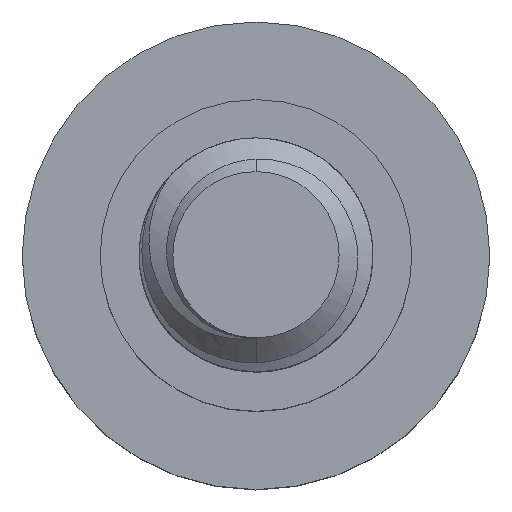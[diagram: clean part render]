
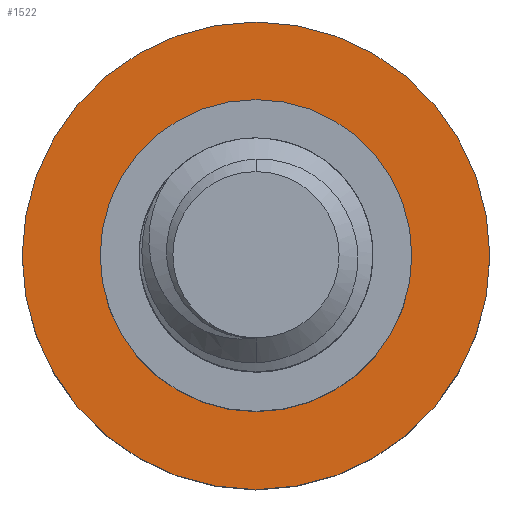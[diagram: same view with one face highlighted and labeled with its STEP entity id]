
A CAD part, top view. The second image highlights one B-rep face of the part: STEP entity #1522.
In plain terms, the highlighted planar face has unit normal (0, 0, 1).
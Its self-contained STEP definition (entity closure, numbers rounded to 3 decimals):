
#7 = DIRECTION ( 'NONE',  ( 0., 0., -1. ) ) ;
#72 = FACE_BOUND ( 'NONE', #4036, .T. ) ;
#245 = VERTEX_POINT ( 'NONE', #2817 ) ;
#297 = CARTESIAN_POINT ( 'NONE',  ( 0., 0., -5. ) ) ;
#456 = CIRCLE ( 'NONE', #653, 6. ) ;
#482 = ORIENTED_EDGE ( 'NONE', *, *, #2684, .T. ) ;
#546 = DIRECTION ( 'NONE',  ( 0., 0., -1. ) ) ;
#653 = AXIS2_PLACEMENT_3D ( 'NONE', #3364, #760, #3056 ) ;
#741 = PLANE ( 'NONE',  #2084 ) ;
#760 = DIRECTION ( 'NONE',  ( 0., 0., -1. ) ) ;
#793 = EDGE_CURVE ( 'NONE', #245, #3129, #1934, .T. ) ;
#953 = EDGE_CURVE ( 'NONE', #3864, #3078, #1600, .T. ) ;
#1001 = AXIS2_PLACEMENT_3D ( 'NONE', #2412, #2758, #3719 ) ;
#1522 = ADVANCED_FACE ( 'NONE', ( #72, #2687 ), #741, .F. ) ;
#1600 = CIRCLE ( 'NONE', #4162, 6. ) ;
#1934 = CIRCLE ( 'NONE', #3817, 4. ) ;
#1959 = ORIENTED_EDGE ( 'NONE', *, *, #793, .T. ) ;
#2037 = CARTESIAN_POINT ( 'NONE',  ( 0., 0., -5. ) ) ;
#2084 = AXIS2_PLACEMENT_3D ( 'NONE', #2037, #3359, #3033 ) ;
#2220 = CIRCLE ( 'NONE', #1001, 4. ) ;
#2368 = CARTESIAN_POINT ( 'NONE',  ( -6., 0., -5. ) ) ;
#2412 = CARTESIAN_POINT ( 'NONE',  ( 0., 0., -5. ) ) ;
#2580 = CARTESIAN_POINT ( 'NONE',  ( 0., 0., -5. ) ) ;
#2684 = EDGE_CURVE ( 'NONE', #3129, #245, #2220, .T. ) ;
#2687 = FACE_OUTER_BOUND ( 'NONE', #3583, .T. ) ;
#2758 = DIRECTION ( 'NONE',  ( 0., 0., -1. ) ) ;
#2817 = CARTESIAN_POINT ( 'NONE',  ( -4., 0., -5. ) ) ;
#2818 = ORIENTED_EDGE ( 'NONE', *, *, #953, .F. ) ;
#2951 = DIRECTION ( 'NONE',  ( -1., 0., 0. ) ) ;
#2959 = CARTESIAN_POINT ( 'NONE',  ( 6., 0., -5. ) ) ;
#3033 = DIRECTION ( 'NONE',  ( -1., 0., 0. ) ) ;
#3056 = DIRECTION ( 'NONE',  ( -1., 0., 0. ) ) ;
#3078 = VERTEX_POINT ( 'NONE', #2368 ) ;
#3081 = EDGE_CURVE ( 'NONE', #3078, #3864, #456, .T. ) ;
#3129 = VERTEX_POINT ( 'NONE', #3165 ) ;
#3165 = CARTESIAN_POINT ( 'NONE',  ( 4., 0., -5. ) ) ;
#3359 = DIRECTION ( 'NONE',  ( 0., 0., -1. ) ) ;
#3364 = CARTESIAN_POINT ( 'NONE',  ( 0., 0., -5. ) ) ;
#3583 = EDGE_LOOP ( 'NONE', ( #2818, #4127 ) ) ;
#3719 = DIRECTION ( 'NONE',  ( -1., 0., 0. ) ) ;
#3817 = AXIS2_PLACEMENT_3D ( 'NONE', #2580, #7, #2951 ) ;
#3864 = VERTEX_POINT ( 'NONE', #2959 ) ;
#4036 = EDGE_LOOP ( 'NONE', ( #1959, #482 ) ) ;
#4127 = ORIENTED_EDGE ( 'NONE', *, *, #3081, .F. ) ;
#4159 = DIRECTION ( 'NONE',  ( -1., 0., 0. ) ) ;
#4162 = AXIS2_PLACEMENT_3D ( 'NONE', #297, #546, #4159 ) ;
